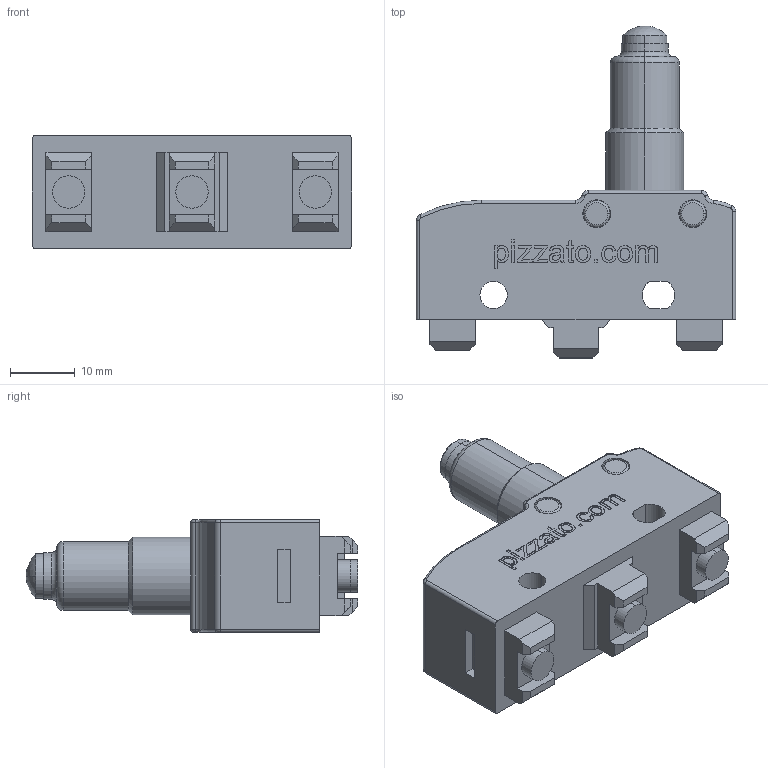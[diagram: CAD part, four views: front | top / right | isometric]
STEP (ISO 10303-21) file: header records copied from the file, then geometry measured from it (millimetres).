
FILE_DESCRIPTION (( 'STEP AP203' ), '1' );
FILE_NAME ('Pizzato_MK_VxxD12.step', '2009-01-29T23:42:08', ( 'Pizzato Elettrica Srl' ), ( '' ), 'SwSTEP 2.0', 'SolidWorks 2008', '' );
FILE_SCHEMA (( 'CONFIG_CONTROL_DESIGN' ));
Length unit declared in the file: millimetre
Products named in the file (4): Pizzato_Pulsante_MK12; Pizzato_MK_VxxD12; Pizzato_Custodia_MK_MKV_06-17; Pizzato_Supporto MK12
Assembly tree (3 placements, depth 2):
  Pizzato_MK_VxxD12
    Pizzato_Custodia_MK_MKV_06-17
    Pizzato_Supporto MK12
    Pizzato_Pulsante_MK12
Bounding box: 49.2 x 51.15 x 17.4 mm (x, y, z)
Volume: 18547.8 mm3; surface area: 7026.7 mm2
Topology: 3 solids, 3 shells, 464 faces, 1186 edges, 777 vertices
Faces by surface type: plane 279, cylinder 82, bspline 69, torus 30, cone 2, sphere 2
Entity records: 17734 total; most frequent: CARTESIAN_POINT 6326, ORIENTED_EDGE 2372, DIRECTION 2070, EDGE_CURVE 1186, VECTOR 828, LINE 828, VERTEX_POINT 777, AXIS2_PLACEMENT_3D 621
